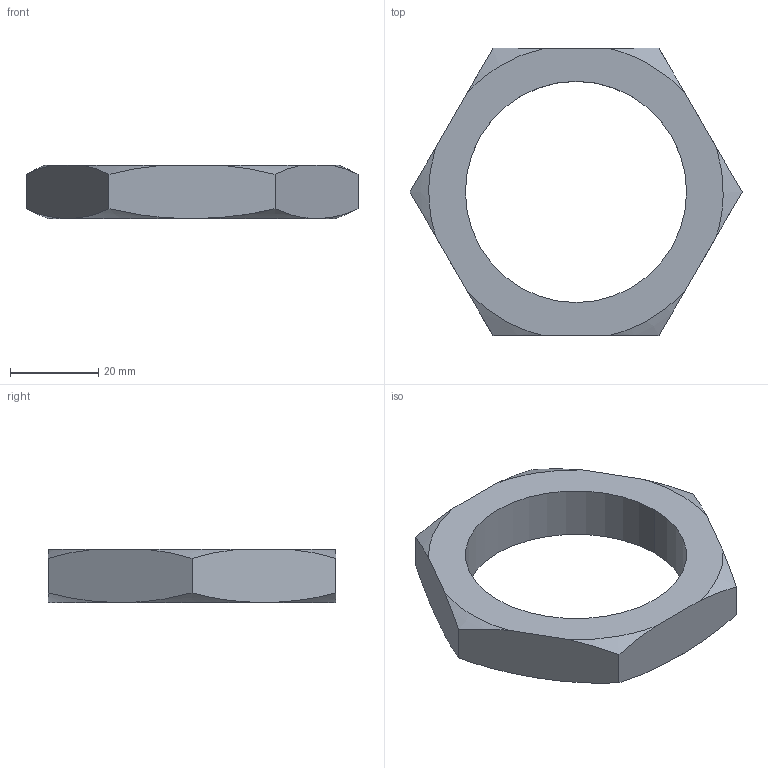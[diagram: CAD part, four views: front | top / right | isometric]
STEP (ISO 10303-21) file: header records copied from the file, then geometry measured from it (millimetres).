
FILE_DESCRIPTION(('CATIA V5 STEP Exchange'),'2;1');
FILE_NAME('W:\LIBRERIA TECAPRES®\DIBUJOS STRACK 2012\BRIDAS\FR\FR 50.stp','2013-04-09T06:55:36+00:00',('none'),('none'),'CATIA Version 5 Release 17 (IN-10)','CATIA V5 STEP AP203','none');
FILE_SCHEMA(('CONFIG_CONTROL_DESIGN'));
Length unit declared in the file: millimetre
Products named in the file (1): C:\Documents and Settings\Luisg\Mis documentos\Dibujos catálogo 2009\MICRO25x25
Bounding box: 75.06 x 65 x 12 mm (x, y, z)
Volume: 20000.3 mm3; surface area: 7749.5 mm2
Topology: 1 solids, 1 shells, 18 faces, 48 edges, 32 vertices
Faces by surface type: plane 8, revolution 8, cylinder 2
Entity records: 875 total; most frequent: CARTESIAN_POINT 460, ORIENTED_EDGE 96, EDGE_CURVE 48, DIRECTION 40, VERTEX_POINT 32, B_SPLINE_CURVE_WITH_KNOTS 30, EDGE_LOOP 20, ADVANCED_FACE 18
